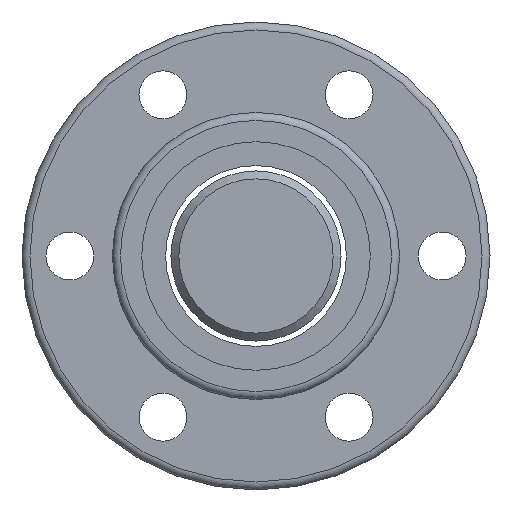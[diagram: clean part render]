
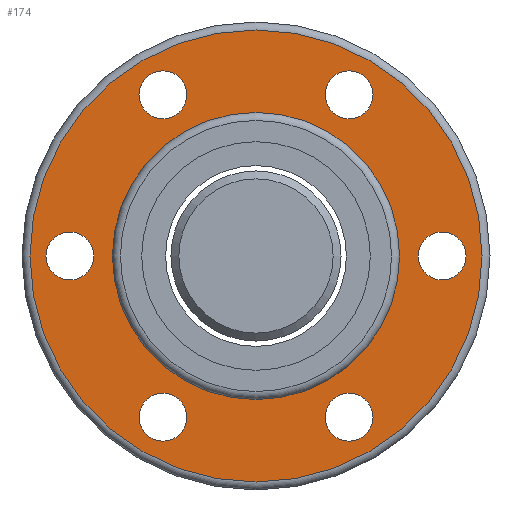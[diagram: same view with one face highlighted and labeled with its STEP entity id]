
A CAD part, left-side view. The second image highlights one B-rep face of the part: STEP entity #174.
In plain terms, the highlighted planar face has unit normal (-1, 0, 0).
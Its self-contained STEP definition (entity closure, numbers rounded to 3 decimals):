
#121=PLANE('',#810);
#142=FACE_OUTER_BOUND('',#381,.T.);
#174=ADVANCED_FACE('',(#271,#272,#273,#274,#275,#276,#142,#277),#121,.F.);
#271=FACE_BOUND('',#375,.T.);
#272=FACE_BOUND('',#376,.T.);
#273=FACE_BOUND('',#377,.T.);
#274=FACE_BOUND('',#378,.T.);
#275=FACE_BOUND('',#379,.T.);
#276=FACE_BOUND('',#380,.T.);
#277=FACE_BOUND('',#382,.T.);
#375=EDGE_LOOP('',(#497));
#376=EDGE_LOOP('',(#498));
#377=EDGE_LOOP('',(#499));
#378=EDGE_LOOP('',(#500));
#379=EDGE_LOOP('',(#501));
#380=EDGE_LOOP('',(#502));
#381=EDGE_LOOP('',(#503));
#382=EDGE_LOOP('',(#504));
#497=ORIENTED_EDGE('',*,*,#667,.T.);
#498=ORIENTED_EDGE('',*,*,#668,.T.);
#499=ORIENTED_EDGE('',*,*,#669,.T.);
#500=ORIENTED_EDGE('',*,*,#670,.T.);
#501=ORIENTED_EDGE('',*,*,#671,.T.);
#502=ORIENTED_EDGE('',*,*,#672,.T.);
#503=ORIENTED_EDGE('',*,*,#666,.F.);
#504=ORIENTED_EDGE('',*,*,#651,.T.);
#590=VERTEX_POINT('',#1138);
#605=VERTEX_POINT('',#1177);
#606=VERTEX_POINT('',#1180);
#607=VERTEX_POINT('',#1182);
#608=VERTEX_POINT('',#1184);
#609=VERTEX_POINT('',#1186);
#610=VERTEX_POINT('',#1188);
#611=VERTEX_POINT('',#1190);
#651=EDGE_CURVE('',#590,#590,#712,.T.);
#666=EDGE_CURVE('',#605,#605,#727,.T.);
#667=EDGE_CURVE('',#606,#606,#728,.T.);
#668=EDGE_CURVE('',#607,#607,#729,.T.);
#669=EDGE_CURVE('',#608,#608,#730,.T.);
#670=EDGE_CURVE('',#609,#609,#731,.T.);
#671=EDGE_CURVE('',#610,#610,#732,.T.);
#672=EDGE_CURVE('',#611,#611,#733,.T.);
#712=CIRCLE('',#778,27.);
#727=CIRCLE('',#802,42.5);
#728=CIRCLE('',#804,4.5);
#729=CIRCLE('',#805,4.5);
#730=CIRCLE('',#806,4.5);
#731=CIRCLE('',#807,4.5);
#732=CIRCLE('',#808,4.5);
#733=CIRCLE('',#809,4.5);
#778=AXIS2_PLACEMENT_3D('',#1137,#906,#907);
#802=AXIS2_PLACEMENT_3D('',#1176,#954,#955);
#804=AXIS2_PLACEMENT_3D('',#1179,#958,#959);
#805=AXIS2_PLACEMENT_3D('',#1181,#960,#961);
#806=AXIS2_PLACEMENT_3D('',#1183,#962,#963);
#807=AXIS2_PLACEMENT_3D('',#1185,#964,#965);
#808=AXIS2_PLACEMENT_3D('',#1187,#966,#967);
#809=AXIS2_PLACEMENT_3D('',#1189,#968,#969);
#810=AXIS2_PLACEMENT_3D('',#1191,#970,#971);
#906=DIRECTION('',(1.,0.,0.));
#907=DIRECTION('',(0.,1.,0.));
#954=DIRECTION('',(1.,0.,0.));
#955=DIRECTION('',(0.,1.,0.));
#958=DIRECTION('',(1.,0.,0.));
#959=DIRECTION('',(0.,1.,0.));
#960=DIRECTION('',(1.,0.,0.));
#961=DIRECTION('',(0.,1.,0.));
#962=DIRECTION('',(1.,0.,0.));
#963=DIRECTION('',(0.,1.,0.));
#964=DIRECTION('',(1.,0.,0.));
#965=DIRECTION('',(0.,1.,0.));
#966=DIRECTION('',(1.,0.,0.));
#967=DIRECTION('',(0.,1.,0.));
#968=DIRECTION('',(1.,0.,0.));
#969=DIRECTION('',(0.,1.,0.));
#970=DIRECTION('',(1.,0.,0.));
#971=DIRECTION('',(0.,1.,0.));
#1137=CARTESIAN_POINT('',(-30.,0.,0.));
#1138=CARTESIAN_POINT('',(-30.,27.,0.));
#1176=CARTESIAN_POINT('',(-30.,0.,0.));
#1177=CARTESIAN_POINT('',(-30.,42.5,0.));
#1179=CARTESIAN_POINT('',(-30.,17.5,-30.311));
#1180=CARTESIAN_POINT('',(-30.,22.,-30.311));
#1181=CARTESIAN_POINT('',(-30.,-17.5,-30.311));
#1182=CARTESIAN_POINT('',(-30.,-13.,-30.311));
#1183=CARTESIAN_POINT('',(-30.,-35.,0.));
#1184=CARTESIAN_POINT('',(-30.,-30.5,0.));
#1185=CARTESIAN_POINT('',(-30.,-17.5,30.311));
#1186=CARTESIAN_POINT('',(-30.,-13.,30.311));
#1187=CARTESIAN_POINT('',(-30.,17.5,30.311));
#1188=CARTESIAN_POINT('',(-30.,22.,30.311));
#1189=CARTESIAN_POINT('',(-30.,35.,0.));
#1190=CARTESIAN_POINT('',(-30.,39.5,0.));
#1191=CARTESIAN_POINT('',(-30.,34.75,0.));
